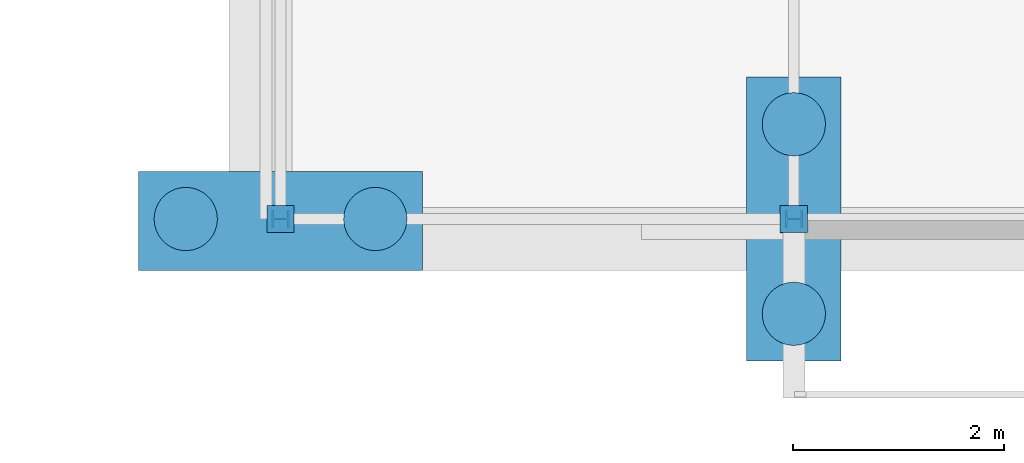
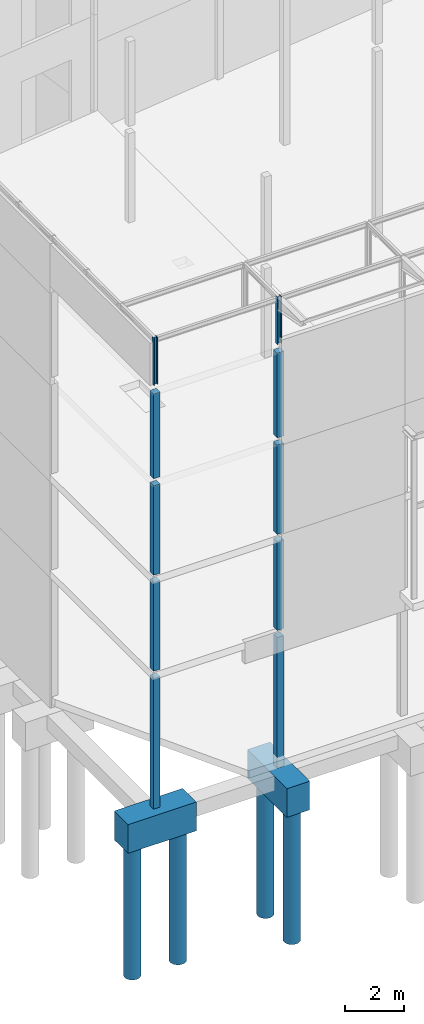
# One storey, part 1 of 82: 16 columns.
"""IFC2X3 building model written with IfcOpenShell, lengths in millimetres."""

from ifc_helpers import new_model, si_unit, frame, frame_2d, origin_with_axes, place, context, subcontext, project, spatial, rectangle, circle, i_section, extrude, material, type_object, element, save


model = new_model("IFC2X3")

# Units and contexts
model_context = context("Model", 3, precision=1e-05, world=origin_with_axes())
body_context = subcontext(model_context, "Body", "Model", "MODEL_VIEW")
ifc_project = project(units=[si_unit("LENGTHUNIT", "METRE", prefix="MILLI"), si_unit("AREAUNIT", "SQUARE_METRE"), si_unit("VOLUMEUNIT", "CUBIC_METRE"), si_unit("MASSUNIT", "GRAM", prefix="KILO"), si_unit("TIMEUNIT", "SECOND"), si_unit("PLANEANGLEUNIT", "RADIAN"), si_unit("SOLIDANGLEUNIT", "STERADIAN"), si_unit("THERMODYNAMICTEMPERATUREUNIT", "DEGREE_CELSIUS"), si_unit("LUMINOUSINTENSITYUNIT", "LUMEN")], contexts=[model_context])

# Site, building, storey
site_placement = place(None, origin_with_axes())
site = spatial("IfcSite", under=ifc_project, at=site_placement, Name="Undefined", CompositionType="ELEMENT")
building_placement = place(site_placement, origin_with_axes())
building = spatial("IfcBuilding", under=site, at=building_placement, Name="Undefined", CompositionType="ELEMENT")
storey_placement = place(building_placement, origin_with_axes())
storey = spatial("IfcBuildingStorey", under=building, at=storey_placement, Name="Undefined", CompositionType="ELEMENT", Elevation=0.0)

# Columns
ifc_material_1 = material(Name="CONCRETE/C25/30")
column_type_1 = type_object("IfcColumnType", Name="260*260", PredefinedType="NOTDEFINED")
for number, where, z_axis, x_axis, name in (
    (1, (4874.99999999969, 2.123809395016e-08, 13330.0), (0.0, 0.0, 1.0), (1.0, 0.0, 0.0), "POTEAU"),
    (2, (-3.09228198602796e-10, 2.89972206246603e-08, 13330.0), (0.0, 0.0, 1.0), (1.0, 0.0, 0.0), "POTEAU"),
):
    element("IfcColumn", number, at=place(storey_placement, frame(where, z_axis=z_axis, x_axis=x_axis)), inside=storey, type_object=column_type_1, material=ifc_material_1, Name=name, ObjectType="260*260", context=body_context, shape_type="SweptSolid", body=[
        extrude(rectangle(XDim=260.0, YDim=260.0, at=frame_2d((5.17284206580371e-08, 4.49290382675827e-10), x_axis=(1.0, 0.0))), frame((0.0, 0.0, 3529.99999999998), z_axis=(0.0, -6.50000002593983e-08, -0.999999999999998), x_axis=(-1.0, 0.0, 0.0)), (0.0, 0.0, 1.0), 3530.0),
    ])
for number, where, z_axis, x_axis, name in (
    (3, (4874.99999999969, 2.12376392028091e-08, 9305.0), (0.0, 0.0, 1.0), (1.0, 0.0, 0.0), "POTEAU"),
    (4, (-3.09228198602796e-10, 2.89967658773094e-08, 9305.0), (0.0, 0.0, 1.0), (1.0, 0.0, 0.0), "POTEAU"),
):
    element("IfcColumn", number, at=place(storey_placement, frame(where, z_axis=z_axis, x_axis=x_axis)), inside=storey, type_object=column_type_1, material=ifc_material_1, Name=name, ObjectType="260*260", context=body_context, shape_type="SweptSolid", body=[
        extrude(rectangle(XDim=260.0, YDim=260.0, at=frame_2d((5.17284206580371e-08, 4.49290382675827e-10), x_axis=(1.0, 0.0))), frame((0.0, 0.0, 3725.0), z_axis=(0.0, -6.50000002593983e-08, -0.999999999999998), x_axis=(-1.0, 0.0, 0.0)), (0.0, 0.0, 1.0), 3725.0),
    ])
for number, where, z_axis, x_axis, name in (
    (5, (4874.99999999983, 2.12417319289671e-08, 5300.0), (0.0, 0.0, 1.0), (1.0, 0.0, 0.0), "POTEAU"),
    (6, (-2.9831426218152e-10, 2.90081345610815e-08, 5300.0), (0.0, 0.0, 1.0), (1.0, 0.0, 0.0), "POTEAU"),
):
    element("IfcColumn", number, at=place(storey_placement, frame(where, z_axis=z_axis, x_axis=x_axis)), inside=storey, type_object=column_type_1, material=ifc_material_1, Name=name, ObjectType="260*260", context=body_context, shape_type="SweptSolid", body=[
        extrude(rectangle(XDim=260.0, YDim=260.0, at=frame_2d((5.17284206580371e-08, 4.49290382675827e-10), x_axis=(1.0, 0.0))), frame((0.0, 0.0, 3705.00000000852), z_axis=(0.0, -6.50000002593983e-08, -0.999999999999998), x_axis=(-1.0, 0.0, 0.0)), (0.0, 0.0, 1.0), 3705.0),
    ])
for number, where, z_axis, x_axis, name in (
    (7, (4874.99999999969, 2.123809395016e-08, -450.0), (0.0, 0.0, 1.0), (1.0, 0.0, 0.0), "POTEAU"),
    (8, (-3.09228198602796e-10, 2.89972206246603e-08, -450.0), (0.0, 0.0, 1.0), (1.0, 0.0, 0.0), "POTEAU"),
):
    element("IfcColumn", number, at=place(storey_placement, frame(where, z_axis=z_axis, x_axis=x_axis)), inside=storey, type_object=column_type_1, material=ifc_material_1, Name=name, ObjectType="260*260", context=body_context, shape_type="SweptSolid", body=[
        extrude(rectangle(XDim=260.0, YDim=260.0, at=frame_2d((5.17284206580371e-08, 4.49290382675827e-10), x_axis=(1.0, 0.0))), frame((0.0, 0.0, 5450.00000000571), z_axis=(0.0, -6.50000002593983e-08, -0.999999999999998), x_axis=(-1.0, 0.0, 0.0)), (0.0, 0.0, 1.0), 5450.0),
    ])
ifc_material_2 = material(Name="STEEL/S275JR")
column_type_2 = type_object("IfcColumnType", Name="HEB160", PredefinedType="NOTDEFINED")
for number, where, z_axis, x_axis, name in (
    (9, (-5.5613782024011e-08, 7.45265538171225e-09, 17160.0), (0.0, 0.0, 1.0), (1.0, 0.0, 0.0), "POTEAU"),
    (10, (4874.99999997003, -1.71102954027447e-08, 17160.0), (0.0, 0.0, 1.0), (1.0, 0.0, 0.0), "POTEAU"),
):
    element("IfcColumn", number, at=place(storey_placement, frame(where, z_axis=z_axis, x_axis=x_axis)), inside=storey, type_object=column_type_2, material=ifc_material_2, Name=name, ObjectType="HEB160", context=body_context, shape_type="SweptSolid", body=[
        extrude(i_section(OverallWidth=160.0, OverallDepth=160.0, WebThickness=8.0, FlangeThickness=13.0, FilletRadius=15.0, at=frame_2d((5.17284206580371e-08, 4.49290382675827e-10), x_axis=(1.0, 0.0))), frame((0.0, 0.0, 1965.0), z_axis=(0.0, -6.50000002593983e-08, -0.999999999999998), x_axis=(-2.77555756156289e-17, -1.0, 0.0)), (0.0, 0.0, 1.0), 1965.0),
    ])
ifc_material_3 = material(Name="CONCRETE/C30/37")
column_type_3 = type_object("IfcColumnType", Name="2700*900", PredefinedType="NOTDEFINED")
column_1_placement = place(storey_placement, frame((4875.0000000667, -2.88391390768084e-08, -1650.0), z_axis=(0.0, 0.0, 1.0), x_axis=(1.0, 0.0, 0.0)))
element("IfcColumn", 11, at=column_1_placement, inside=storey, type_object=column_type_3, material=ifc_material_3, Name="SEMELLE", ObjectType="2700*900", context=body_context, shape_type="SweptSolid", body=[
    extrude(rectangle(XDim=900.0, YDim=2700.0, at=frame_2d((5.17284206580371e-08, 4.49290382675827e-10), x_axis=(1.0, 0.0))), frame((0.0, 0.0, 1200.0), z_axis=(0.0, -6.50000002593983e-08, -0.999999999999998), x_axis=(-1.0, 0.0, 0.0)), (0.0, 0.0, 1.0), 1200.0),
])
column_type_4 = type_object("IfcColumnType", Name="2700*940", PredefinedType="NOTDEFINED")
column_2_placement = place(storey_placement, frame((3.57831595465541e-08, -19.9999999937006, -1650.0), z_axis=(0.0, 0.0, 1.0), x_axis=(1.0, 0.0, 0.0)))
element("IfcColumn", 12, at=column_2_placement, inside=storey, type_object=column_type_4, material=ifc_material_3, Name="SEMELLE", ObjectType="2700*940", context=body_context, shape_type="SweptSolid", body=[
    extrude(rectangle(XDim=940.0, YDim=2700.0, at=frame_2d((5.17284206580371e-08, 4.49290382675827e-10), x_axis=(1.0, 0.0))), frame((0.0, 0.0, 1200.0), z_axis=(0.0, -6.50000002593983e-08, -0.999999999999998), x_axis=(-2.77555756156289e-17, -1.0, 0.0)), (0.0, 0.0, 1.0), 1200.0),
])
column_type_5 = type_object("IfcColumnType", Name="D600", PredefinedType="NOTDEFINED")
column_3_placement = place(storey_placement, frame((-899.999999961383, -1.89163245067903e-08, -7175.0), z_axis=(0.0, 0.0, 1.0), x_axis=(1.0, 0.0, 0.0)))
element("IfcColumn", 13, at=column_3_placement, inside=storey, type_object=column_type_5, material=ifc_material_1, Name="PIEU", ObjectType="D600", context=body_context, shape_type="SweptSolid", body=[
    extrude(circle(Radius=300.0, at=frame_2d((5.17284206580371e-08, 4.49290382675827e-10), x_axis=(1.0, 0.0))), frame((0.0, 0.0, 5500.0), z_axis=(0.0, -6.50000002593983e-08, -0.999999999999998), x_axis=(0.0, 1.0, 0.0)), (0.0, 0.0, 1.0), 5500.0),
])
column_4_placement = place(storey_placement, frame((900.000000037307, -2.21232028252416e-08, -7175.0), z_axis=(0.0, 0.0, 1.0), x_axis=(1.0, 0.0, 0.0)))
element("IfcColumn", 14, at=column_4_placement, inside=storey, type_object=column_type_5, material=ifc_material_1, Name="PIEU", ObjectType="D600", context=body_context, shape_type="SweptSolid", body=[
    extrude(circle(Radius=300.0, at=frame_2d((5.17284206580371e-08, 4.49290382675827e-10), x_axis=(1.0, 0.0))), frame((0.0, 0.0, 5750.0), z_axis=(0.0, -6.50000002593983e-08, -0.999999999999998), x_axis=(0.0, 1.0, 0.0)), (0.0, 0.0, 1.0), 5750.0),
])
for number, where, z_axis, x_axis in (
    (15, (4875.00000003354, -900.000000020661, -7175.0), (0.0, 0.0, 1.0), (1.0, 0.0, 0.0)),
    (16, (4875.00000003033, 899.99999998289, -7175.0), (0.0, 0.0, 1.0), (1.0, 0.0, 0.0)),
):
    element("IfcColumn", number, at=place(storey_placement, frame(where, z_axis=z_axis, x_axis=x_axis)), inside=storey, type_object=column_type_5, material=ifc_material_1, Name="PIEU", ObjectType="D600", context=body_context, shape_type="SweptSolid", body=[
        extrude(circle(Radius=300.0, at=frame_2d((5.17284206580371e-08, 4.49290382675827e-10), x_axis=(1.0, 0.0))), frame((0.0, 0.0, 5750.0), z_axis=(0.0, -6.50000002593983e-08, -0.999999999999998), x_axis=(-1.0, 0.0, 0.0)), (0.0, 0.0, 1.0), 5750.0),
    ])

save(model, "model.ifc")
